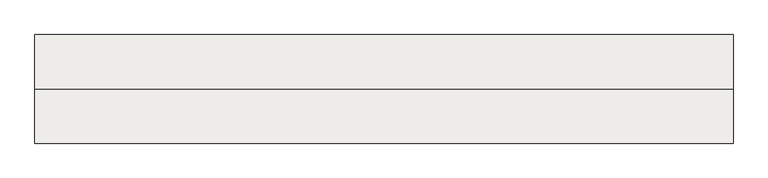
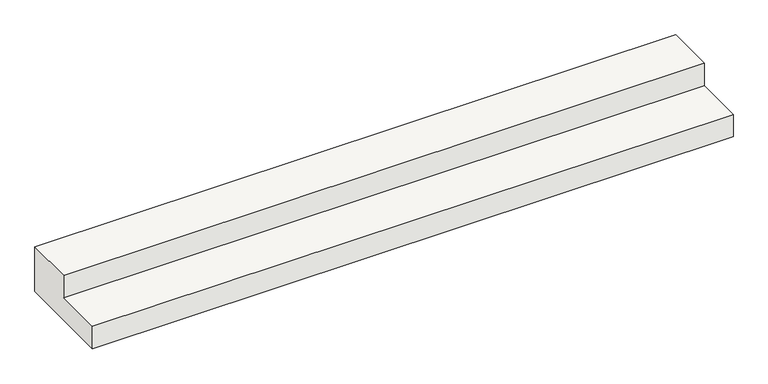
"""IFC4 building model written with IfcOpenShell, lengths in millimetres: slab geometry, 结构基础 1 : 结构基础 1."""

from ifc_helpers import new_model, si_unit, frame, origin, place, context, project, spatial, polyline, outline, extrude, source, transform, mapped, element, save


def slab_393b2294(model_context):
    return source(origin(), model_context, "Body", "SweptSolid", [
        extrude(outline(polyline([(-809.8143546, -133.3333333), (-529.8143546, -133.3333333), (-529.8143546, -400.0), (-1089.8143546, -400.0), (-1089.8143546, -266.6666667), (-809.8143546, -266.6666667), (-809.8143546, -133.3333333)])), frame((26022.1385293, 0.0, 0.0), z_axis=(1.0, 0.0, 0.0), x_axis=(0.0, 1.0, 0.0)), (0.0, 0.0, 1.0), 3600.0),
    ])


if __name__ == "__main__":
    model = new_model("IFC4")
    model_context = context("Model", 3, world=origin())
    ifc_project = project(units=[si_unit("LENGTHUNIT", "METRE", prefix="MILLI")], contexts=[model_context])
    site = spatial("IfcSite", under=ifc_project)
    building = spatial("IfcBuilding", under=site)
    placement = place(None, origin())
    slab_shape = slab_393b2294(model_context)
    element("IfcSlab", 1, ObjectType="结构基础 1 : 结构基础 1", at=placement, inside=building, context=model_context, shape_type="MappedRepresentation", body=[
        mapped(slab_shape, transform((0.0, 0.0, 0.0), x_axis=(1.0, 0.0, 0.0), y_axis=(0.0, 1.0, 0.0), z_axis=(0.0, 0.0, 1.0))),
    ])
    save(model, "model.ifc")
